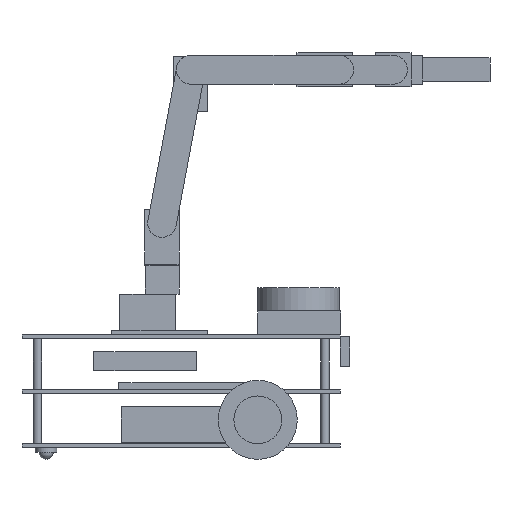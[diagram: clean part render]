
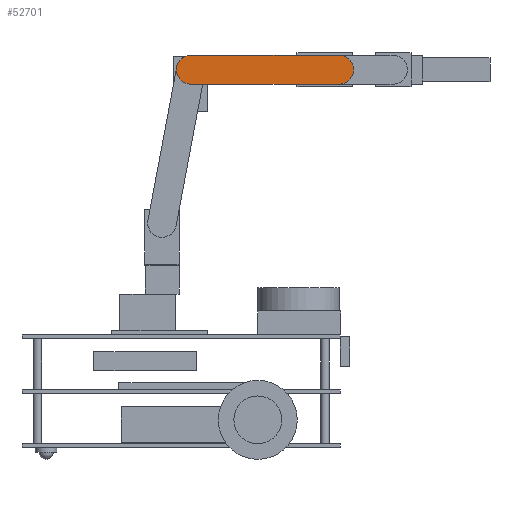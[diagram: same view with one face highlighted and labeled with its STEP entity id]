
A CAD part, front view. The second image highlights one B-rep face of the part: STEP entity #52701.
In plain terms, the highlighted planar face has unit normal (0, -1, 0).
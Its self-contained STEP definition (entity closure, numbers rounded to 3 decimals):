
#52383 = VERTEX_POINT('',#52384);
#52384 = CARTESIAN_POINT('',(0.,-24.5,12.));
#52391 = PLANE('',#52392);
#52392 = AXIS2_PLACEMENT_3D('',#52393,#52394,#52395);
#52393 = CARTESIAN_POINT('',(0.,-21.5,12.));
#52394 = DIRECTION('',(-0.,0.,1.));
#52395 = DIRECTION('',(1.,0.,0.));
#52403 = CYLINDRICAL_SURFACE('',#52404,12.);
#52404 = AXIS2_PLACEMENT_3D('',#52405,#52406,#52407);
#52405 = CARTESIAN_POINT('',(0.,-21.5,0.));
#52406 = DIRECTION('',(0.,1.,0.));
#52407 = DIRECTION('',(0.,0.,-1.));
#52415 = EDGE_CURVE('',#52383,#52416,#52418,.T.);
#52416 = VERTEX_POINT('',#52417);
#52417 = CARTESIAN_POINT('',(124.,-24.5,12.));
#52418 = SURFACE_CURVE('',#52419,(#52423,#52430),.PCURVE_S1.);
#52419 = LINE('',#52420,#52421);
#52420 = CARTESIAN_POINT('',(0.,-24.5,12.));
#52421 = VECTOR('',#52422,1.);
#52422 = DIRECTION('',(1.,0.,0.));
#52423 = PCURVE('',#52391,#52424);
#52424 = DEFINITIONAL_REPRESENTATION('',(#52425),#52429);
#52425 = LINE('',#52426,#52427);
#52426 = CARTESIAN_POINT('',(0.,-3.));
#52427 = VECTOR('',#52428,1.);
#52428 = DIRECTION('',(1.,0.));
#52429 = ( GEOMETRIC_REPRESENTATION_CONTEXT(2) 
PARAMETRIC_REPRESENTATION_CONTEXT() REPRESENTATION_CONTEXT('2D SPACE',''
  ) );
#52430 = PCURVE('',#52431,#52436);
#52431 = PLANE('',#52432);
#52432 = AXIS2_PLACEMENT_3D('',#52433,#52434,#52435);
#52433 = CARTESIAN_POINT('',(62.,-24.5,0.));
#52434 = DIRECTION('',(0.,1.,0.));
#52435 = DIRECTION('',(0.,-0.,1.));
#52436 = DEFINITIONAL_REPRESENTATION('',(#52437),#52441);
#52437 = LINE('',#52438,#52439);
#52438 = CARTESIAN_POINT('',(12.,-62.));
#52439 = VECTOR('',#52440,1.);
#52440 = DIRECTION('',(0.,1.));
#52441 = ( GEOMETRIC_REPRESENTATION_CONTEXT(2) 
PARAMETRIC_REPRESENTATION_CONTEXT() REPRESENTATION_CONTEXT('2D SPACE',''
  ) );
#52459 = CYLINDRICAL_SURFACE('',#52460,12.);
#52460 = AXIS2_PLACEMENT_3D('',#52461,#52462,#52463);
#52461 = CARTESIAN_POINT('',(124.,-21.5,0.));
#52462 = DIRECTION('',(0.,1.,0.));
#52463 = DIRECTION('',(0.,0.,1.));
#52501 = EDGE_CURVE('',#52416,#52502,#52504,.T.);
#52502 = VERTEX_POINT('',#52503);
#52503 = CARTESIAN_POINT('',(124.,-24.5,-12.));
#52504 = SURFACE_CURVE('',#52505,(#52510,#52517),.PCURVE_S1.);
#52505 = CIRCLE('',#52506,12.);
#52506 = AXIS2_PLACEMENT_3D('',#52507,#52508,#52509);
#52507 = CARTESIAN_POINT('',(124.,-24.5,0.));
#52508 = DIRECTION('',(0.,1.,0.));
#52509 = DIRECTION('',(0.,0.,1.));
#52510 = PCURVE('',#52459,#52511);
#52511 = DEFINITIONAL_REPRESENTATION('',(#52512),#52516);
#52512 = LINE('',#52513,#52514);
#52513 = CARTESIAN_POINT('',(0.,-3.));
#52514 = VECTOR('',#52515,1.);
#52515 = DIRECTION('',(1.,0.));
#52516 = ( GEOMETRIC_REPRESENTATION_CONTEXT(2) 
PARAMETRIC_REPRESENTATION_CONTEXT() REPRESENTATION_CONTEXT('2D SPACE',''
  ) );
#52517 = PCURVE('',#52431,#52518);
#52518 = DEFINITIONAL_REPRESENTATION('',(#52519),#52523);
#52519 = CIRCLE('',#52520,12.);
#52520 = AXIS2_PLACEMENT_2D('',#52521,#52522);
#52521 = CARTESIAN_POINT('',(0.,62.));
#52522 = DIRECTION('',(1.,0.));
#52523 = ( GEOMETRIC_REPRESENTATION_CONTEXT(2) 
PARAMETRIC_REPRESENTATION_CONTEXT() REPRESENTATION_CONTEXT('2D SPACE',''
  ) );
#52541 = PLANE('',#52542);
#52542 = AXIS2_PLACEMENT_3D('',#52543,#52544,#52545);
#52543 = CARTESIAN_POINT('',(124.,-21.5,-12.));
#52544 = DIRECTION('',(-0.,-0.,-1.));
#52545 = DIRECTION('',(-1.,0.,0.));
#52579 = EDGE_CURVE('',#52502,#52580,#52582,.T.);
#52580 = VERTEX_POINT('',#52581);
#52581 = CARTESIAN_POINT('',(0.,-24.5,-12.));
#52582 = SURFACE_CURVE('',#52583,(#52587,#52594),.PCURVE_S1.);
#52583 = LINE('',#52584,#52585);
#52584 = CARTESIAN_POINT('',(124.,-24.5,-12.));
#52585 = VECTOR('',#52586,1.);
#52586 = DIRECTION('',(-1.,0.,0.));
#52587 = PCURVE('',#52541,#52588);
#52588 = DEFINITIONAL_REPRESENTATION('',(#52589),#52593);
#52589 = LINE('',#52590,#52591);
#52590 = CARTESIAN_POINT('',(0.,-3.));
#52591 = VECTOR('',#52592,1.);
#52592 = DIRECTION('',(1.,0.));
#52593 = ( GEOMETRIC_REPRESENTATION_CONTEXT(2) 
PARAMETRIC_REPRESENTATION_CONTEXT() REPRESENTATION_CONTEXT('2D SPACE',''
  ) );
#52594 = PCURVE('',#52431,#52595);
#52595 = DEFINITIONAL_REPRESENTATION('',(#52596),#52600);
#52596 = LINE('',#52597,#52598);
#52597 = CARTESIAN_POINT('',(-12.,62.));
#52598 = VECTOR('',#52599,1.);
#52599 = DIRECTION('',(0.,-1.));
#52600 = ( GEOMETRIC_REPRESENTATION_CONTEXT(2) 
PARAMETRIC_REPRESENTATION_CONTEXT() REPRESENTATION_CONTEXT('2D SPACE',''
  ) );
#52650 = EDGE_CURVE('',#52580,#52383,#52651,.T.);
#52651 = SURFACE_CURVE('',#52652,(#52657,#52664),.PCURVE_S1.);
#52652 = CIRCLE('',#52653,12.);
#52653 = AXIS2_PLACEMENT_3D('',#52654,#52655,#52656);
#52654 = CARTESIAN_POINT('',(0.,-24.5,0.));
#52655 = DIRECTION('',(0.,1.,0.));
#52656 = DIRECTION('',(0.,0.,-1.));
#52657 = PCURVE('',#52403,#52658);
#52658 = DEFINITIONAL_REPRESENTATION('',(#52659),#52663);
#52659 = LINE('',#52660,#52661);
#52660 = CARTESIAN_POINT('',(0.,-3.));
#52661 = VECTOR('',#52662,1.);
#52662 = DIRECTION('',(1.,0.));
#52663 = ( GEOMETRIC_REPRESENTATION_CONTEXT(2) 
PARAMETRIC_REPRESENTATION_CONTEXT() REPRESENTATION_CONTEXT('2D SPACE',''
  ) );
#52664 = PCURVE('',#52431,#52665);
#52665 = DEFINITIONAL_REPRESENTATION('',(#52666),#52670);
#52666 = CIRCLE('',#52667,12.);
#52667 = AXIS2_PLACEMENT_2D('',#52668,#52669);
#52668 = CARTESIAN_POINT('',(0.,-62.));
#52669 = DIRECTION('',(-1.,0.));
#52670 = ( GEOMETRIC_REPRESENTATION_CONTEXT(2) 
PARAMETRIC_REPRESENTATION_CONTEXT() REPRESENTATION_CONTEXT('2D SPACE',''
  ) );
#52701 = ADVANCED_FACE('',(#52702),#52431,.F.);
#52702 = FACE_BOUND('',#52703,.F.);
#52703 = EDGE_LOOP('',(#52704,#52705,#52706,#52707));
#52704 = ORIENTED_EDGE('',*,*,#52415,.T.);
#52705 = ORIENTED_EDGE('',*,*,#52501,.T.);
#52706 = ORIENTED_EDGE('',*,*,#52579,.T.);
#52707 = ORIENTED_EDGE('',*,*,#52650,.T.);
